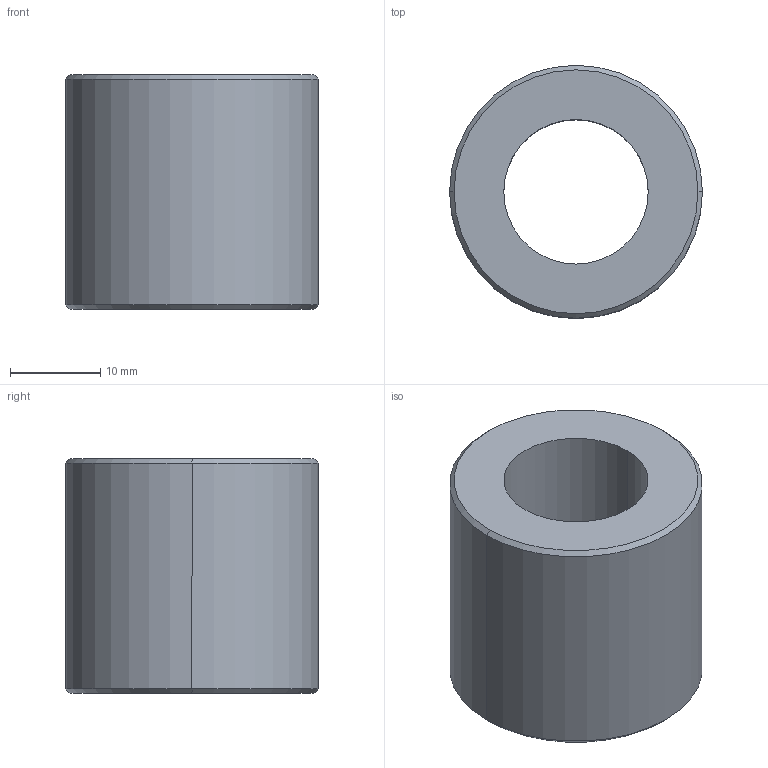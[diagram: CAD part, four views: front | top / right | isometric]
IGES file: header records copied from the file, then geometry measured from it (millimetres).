
Start section: 3D InterOp IGES (Version 21 0 1), Spatial Corp. Copyright (c) 1999-2007.
Global section: file name: TMON-16L.igs; native system: Spatial Corp.; preprocessor: 3D InterOp GENERIC/IGES 3.0; author: Noname; organization: Noname; date: 20220204.162512; units: millimetre
Bounding box: 28 x 28 x 26 mm (x, y, z)
Surface area: 4371.2 mm2 (no closed solid volume)
Topology: 0 solids, 0 shells, 10 faces, 40 edges, 40 vertices
Faces by surface type: revolution 8, extrusion 2
